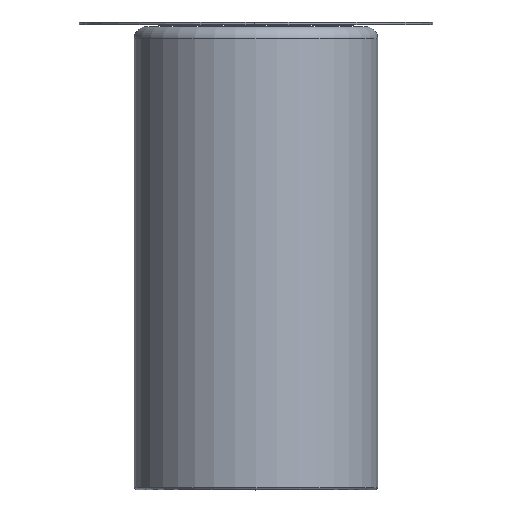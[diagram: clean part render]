
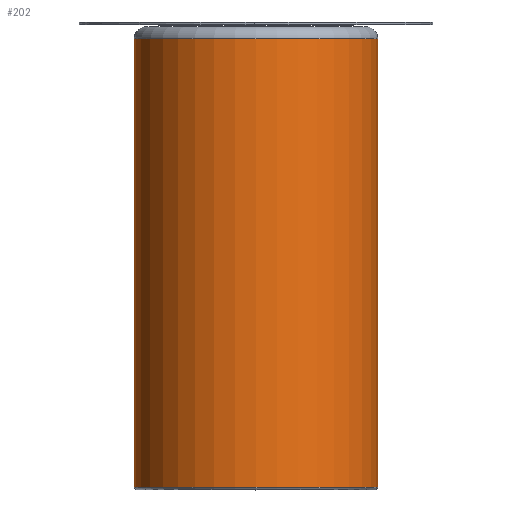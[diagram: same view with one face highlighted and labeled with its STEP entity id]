
A CAD part, top view. The second image highlights one B-rep face of the part: STEP entity #202.
In plain terms, the highlighted cylindrical face has radius 50 mm (diameter 100 mm), a partial arc.
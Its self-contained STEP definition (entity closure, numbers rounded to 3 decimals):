
#93 = EDGE_CURVE ( 'NONE', #1057, #260, #330, .T. ) ;
#102 = ORIENTED_EDGE ( 'NONE', *, *, #770, .T. ) ;
#106 = ORIENTED_EDGE ( 'NONE', *, *, #93, .F. ) ;
#202 = ADVANCED_FACE ( 'NONE', ( #257 ), #1085, .T. ) ;
#230 = ORIENTED_EDGE ( 'NONE', *, *, #572, .F. ) ;
#245 = DIRECTION ( 'NONE',  ( 1., 0., 0. ) ) ;
#252 = CARTESIAN_POINT ( 'NONE',  ( 0., 0., 0. ) ) ;
#257 = FACE_OUTER_BOUND ( 'NONE', #597, .T. ) ;
#260 = VERTEX_POINT ( 'NONE', #899 ) ;
#263 = VECTOR ( 'NONE', #703, 1000. ) ;
#298 = DIRECTION ( 'NONE',  ( 0., -1., 0. ) ) ;
#308 = ORIENTED_EDGE ( 'NONE', *, *, #964, .T. ) ;
#311 = DIRECTION ( 'NONE',  ( 0., -1., 0. ) ) ;
#330 = LINE ( 'NONE', #1186, #263 ) ;
#448 = DIRECTION ( 'NONE',  ( 0., -1., 0. ) ) ;
#525 = CARTESIAN_POINT ( 'NONE',  ( -50., 0., 0. ) ) ;
#537 = VERTEX_POINT ( 'NONE', #771 ) ;
#572 = EDGE_CURVE ( 'NONE', #260, #938, #1188, .T. ) ;
#574 = CIRCLE ( 'NONE', #689, 50. ) ;
#595 = CARTESIAN_POINT ( 'NONE',  ( 0., 1., 0. ) ) ;
#597 = EDGE_LOOP ( 'NONE', ( #308, #102, #230, #106 ) ) ;
#635 = LINE ( 'NONE', #525, #827 ) ;
#646 = CARTESIAN_POINT ( 'NONE',  ( -50., 1., 0. ) ) ;
#663 = CARTESIAN_POINT ( 'NONE',  ( 0., 185., 0. ) ) ;
#666 = DIRECTION ( 'NONE',  ( 1., 0., 0. ) ) ;
#679 = DIRECTION ( 'NONE',  ( 1., 0., 0. ) ) ;
#689 = AXIS2_PLACEMENT_3D ( 'NONE', #663, #298, #666 ) ;
#703 = DIRECTION ( 'NONE',  ( 0., -1., 0. ) ) ;
#770 = EDGE_CURVE ( 'NONE', #537, #938, #635, .T. ) ;
#771 = CARTESIAN_POINT ( 'NONE',  ( -50., 185., 0. ) ) ;
#827 = VECTOR ( 'NONE', #448, 1000. ) ;
#899 = CARTESIAN_POINT ( 'NONE',  ( 50., 1., 0. ) ) ;
#925 = AXIS2_PLACEMENT_3D ( 'NONE', #595, #311, #679 ) ;
#938 = VERTEX_POINT ( 'NONE', #646 ) ;
#964 = EDGE_CURVE ( 'NONE', #1057, #537, #574, .T. ) ;
#1057 = VERTEX_POINT ( 'NONE', #1153 ) ;
#1085 = CYLINDRICAL_SURFACE ( 'NONE', #1124, 50. ) ;
#1124 = AXIS2_PLACEMENT_3D ( 'NONE', #252, #1203, #245 ) ;
#1153 = CARTESIAN_POINT ( 'NONE',  ( 50., 185., 0. ) ) ;
#1186 = CARTESIAN_POINT ( 'NONE',  ( 50., 0., 0. ) ) ;
#1188 = CIRCLE ( 'NONE', #925, 50. ) ;
#1203 = DIRECTION ( 'NONE',  ( 0., -1., 0. ) ) ;
